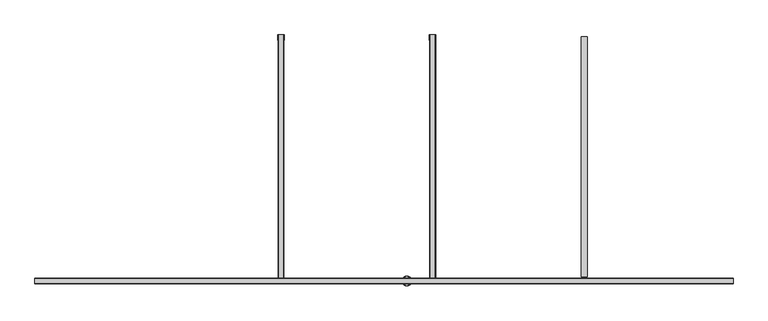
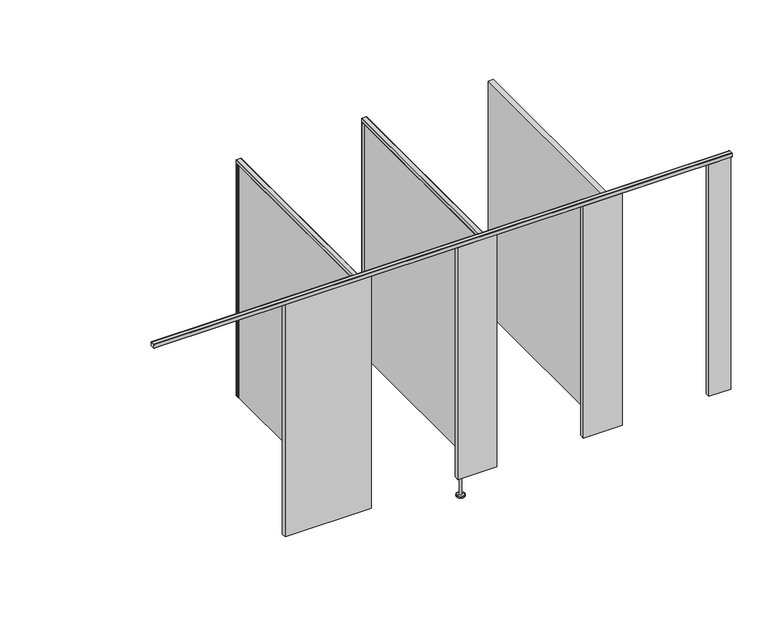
"""IFC4 building model written with IfcOpenShell, lengths in millimetres: proxy geometry, Partition_EuroStyle-Bradley_Corp-ADAStall_3StandardStall-NEP-LOFT : Partition_EuroStyle-Bradley_Corp-ADAStall_3StandardStall-NEP-LOFT."""

from ifc_helpers import new_model, si_unit, point, frame, frame_2d, origin, place, context, project, spatial, polyline, circle_curve, trimmed, segment, composite_curve, outline, extrude, source, transform, mapped, element, save
from ifc_brep_helpers import plane_surface, cylinder_surface, revolved_surface, advanced_brep


def specialty_equipment_5f19d8a4(model_context):
    return source(origin(), model_context, "Body", "SolidModel", [
        extrude(outline(composite_curve([segment(polyline([(2344.9288796, -32.5000002), (2344.4205405, -2.02918)]), True, "CONTINUOUS"), segment(trimmed(circle_curve(frame_2d((2346.4497205, -2.02918)), 2.02918), [point((2344.4205405, -2.02918))], [point((2346.4497205, 0.0))], False, "CARTESIAN"), True, "CONTINUOUS"), segment(polyline([(2346.4497205, 0.0), (2384.3909298, 0.0)]), True, "CONTINUOUS"), segment(trimmed(circle_curve(frame_2d((2384.3909298, -2.02918)), 2.02918), [point((2384.3909298, 0.0))], [point((2386.4201098, -2.02918))], False, "CARTESIAN"), True, "CONTINUOUS"), segment(polyline([(2386.4201098, -2.02918), (2385.9117707, -32.5000002), (2384.4131851, -32.5000002)]), True, "CONTINUOUS"), segment(trimmed(circle_curve(frame_2d((2384.4167525, -31.5009082)), 0.9990984), [point((2384.4131851, -32.5000002))], [point((2383.9430999, -30.6212202))], False, "CARTESIAN"), True, "CONTINUOUS"), segment(polyline([(2383.9430999, -30.6212202), (2384.0642099, -23.3575702)]), True, "CONTINUOUS"), segment(trimmed(circle_curve(frame_2d((2384.5817558, -22.5000551)), 1.0015917), [point((2384.0642099, -23.3575702))], [point((2384.0926587, -21.6260013))], False, "CARTESIAN"), True, "CONTINUOUS"), segment(polyline([(2384.0926587, -21.6260013), (2384.38671, -4.0)]), True, "CONTINUOUS"), segment(trimmed(circle_curve(frame_2d((2382.3870154, -3.9990939)), 1.9996948), [point((2384.38671, -4.0))], [point((2382.3379958, -2.0))], True, "CARTESIAN"), True, "CONTINUOUS"), segment(polyline([(2382.3379958, -2.0), (2348.4536968, -2.0)]), True, "CONTINUOUS"), segment(trimmed(circle_curve(frame_2d((2348.4536968, -4.0002204)), 2.0002204), [point((2348.4536968, -2.0))], [point((2346.4535049, -3.9895469))], True, "CARTESIAN"), True, "CONTINUOUS"), segment(polyline([(2346.4535049, -3.9895469), (2346.7475604, -21.6257602)]), True, "CONTINUOUS"), segment(trimmed(circle_curve(frame_2d((2346.2588945, -22.5000551)), 1.0015917), [point((2346.7475604, -21.6257602))], [point((2346.7764404, -23.3575702))], False, "CARTESIAN"), True, "CONTINUOUS"), segment(polyline([(2346.7764404, -23.3575702), (2346.8975504, -30.6212202)]), True, "CONTINUOUS"), segment(trimmed(circle_curve(frame_2d((2346.4238978, -31.5009082)), 0.9990984), [point((2346.8975504, -30.6212202))], [point((2346.4274652, -32.5000002))], False, "CARTESIAN"), True, "CONTINUOUS"), segment(polyline([(2346.4274652, -32.5000002), (2344.9288796, -32.5000002)]), True, "CONTINUOUS")], self_intersect=False)), frame((0.0, 0.0, 150.0), z_axis=(0.0, 0.0, 1.0), x_axis=(1.0, 0.0, 0.0)), (0.0, 0.0, 1.0), 1855.0),
        extrude(outline(composite_curve([segment(polyline([(1394.518717, -32.5000002), (1394.0103779, -2.02918)]), True, "CONTINUOUS"), segment(trimmed(circle_curve(frame_2d((1396.0395579, -2.02918)), 2.02918), [point((1394.0103779, -2.02918))], [point((1396.0395579, 0.0))], False, "CARTESIAN"), True, "CONTINUOUS"), segment(polyline([(1396.0395579, 0.0), (1433.9807672, 0.0)]), True, "CONTINUOUS"), segment(trimmed(circle_curve(frame_2d((1433.9807672, -2.02918)), 2.02918), [point((1433.9807672, 0.0))], [point((1436.0099473, -2.02918))], False, "CARTESIAN"), True, "CONTINUOUS"), segment(polyline([(1436.0099473, -2.02918), (1435.5016081, -32.5000002), (1434.0030225, -32.5000002)]), True, "CONTINUOUS"), segment(trimmed(circle_curve(frame_2d((1434.0065899, -31.5009082)), 0.9990984), [point((1434.0030225, -32.5000002))], [point((1433.5329373, -30.6212202))], False, "CARTESIAN"), True, "CONTINUOUS"), segment(polyline([(1433.5329373, -30.6212202), (1433.6540473, -23.3575702)]), True, "CONTINUOUS"), segment(trimmed(circle_curve(frame_2d((1434.1715932, -22.5000551)), 1.0015917), [point((1433.6540473, -23.3575702))], [point((1433.6824961, -21.6260013))], False, "CARTESIAN"), True, "CONTINUOUS"), segment(polyline([(1433.6824961, -21.6260013), (1433.9765475, -4.0)]), True, "CONTINUOUS"), segment(trimmed(circle_curve(frame_2d((1431.9768528, -3.9990939)), 1.9996948), [point((1433.9765475, -4.0))], [point((1431.9278332, -2.0))], True, "CARTESIAN"), True, "CONTINUOUS"), segment(polyline([(1431.9278332, -2.0), (1398.0435342, -2.0)]), True, "CONTINUOUS"), segment(trimmed(circle_curve(frame_2d((1398.0435342, -4.0002204)), 2.0002204), [point((1398.0435342, -2.0))], [point((1396.0433424, -3.9895469))], True, "CARTESIAN"), True, "CONTINUOUS"), segment(polyline([(1396.0433424, -3.9895469), (1396.3373979, -21.6257602)]), True, "CONTINUOUS"), segment(trimmed(circle_curve(frame_2d((1395.848732, -22.5000551)), 1.0015917), [point((1396.3373979, -21.6257602))], [point((1396.3662779, -23.3575702))], False, "CARTESIAN"), True, "CONTINUOUS"), segment(polyline([(1396.3662779, -23.3575702), (1396.4873879, -30.6212202)]), True, "CONTINUOUS"), segment(trimmed(circle_curve(frame_2d((1396.0137352, -31.5009082)), 0.9990984), [point((1396.4873879, -30.6212202))], [point((1396.0173026, -32.5000002))], False, "CARTESIAN"), True, "CONTINUOUS"), segment(polyline([(1396.0173026, -32.5000002), (1394.518717, -32.5000002)]), True, "CONTINUOUS")], self_intersect=False)), frame((0.0, 0.0, 150.0), z_axis=(0.0, 0.0, 1.0), x_axis=(1.0, 0.0, 0.0)), (0.0, 0.0, 1.0), 1855.0),
        extrude(outline(composite_curve([segment(polyline([(2032.9666591, 2347.4203701), (2005.7492965, 2347.8741806)]), True, "CONTINUOUS"), segment(trimmed(circle_curve(frame_2d((2005.762, 2348.6360747)), 0.762), [point((2005.7492965, 2347.8741806))], [point((2005.0, 2348.6360747))], False, "CARTESIAN"), True, "CONTINUOUS"), segment(polyline([(2005.0, 2348.6360747), (2005.0, 2382.1733505)]), True, "CONTINUOUS"), segment(trimmed(circle_curve(frame_2d((2005.79375, 2382.1733505)), 0.79375), [point((2005.0, 2382.1733505))], [point((2005.7805172, 2382.9669902))], False, "CARTESIAN"), True, "CONTINUOUS"), segment(polyline([(2005.7805172, 2382.9669902), (2032.9666591, 2383.4202802)]), True, "CONTINUOUS"), segment(trimmed(circle_curve(frame_2d((2033.0000015, 2381.4205597)), 1.9999985), [point((2032.9666591, 2383.4202802))], [point((2035.0, 2381.4205597))], False, "CARTESIAN"), True, "CONTINUOUS"), segment(polyline([(2035.0, 2381.4205597), (2035.0, 2349.4200907)]), True, "CONTINUOUS"), segment(trimmed(circle_curve(frame_2d((2033.0000015, 2349.4200907)), 1.9999985), [point((2035.0, 2349.4200907))], [point((2032.9666591, 2347.4203701))], False, "CARTESIAN"), True, "CONTINUOUS")], self_intersect=False)), frame((0.0, -1524.0, 0.0), z_axis=(0.0, 1.0, 0.0), x_axis=(0.0, 0.0, 1.0)), (0.0, 0.0, 1.0), 1524.0),
        extrude(outline(composite_curve([segment(polyline([(-1523.9996998, 2032.9666591), (-1524.4535103, 2005.7492965)]), True, "CONTINUOUS"), segment(trimmed(circle_curve(frame_2d((-1525.2154044, 2005.762)), 0.762), [point((-1524.4535103, 2005.7492965))], [point((-1525.2154044, 2005.0))], False, "CARTESIAN"), True, "CONTINUOUS"), segment(polyline([(-1525.2154044, 2005.0), (-1558.7526802, 2005.0)]), True, "CONTINUOUS"), segment(trimmed(circle_curve(frame_2d((-1558.7526802, 2005.79375)), 0.79375), [point((-1558.7526802, 2005.0))], [point((-1559.5463199, 2005.7805172))], False, "CARTESIAN"), True, "CONTINUOUS"), segment(polyline([(-1559.5463199, 2005.7805172), (-1559.9996099, 2032.9666591)]), True, "CONTINUOUS"), segment(trimmed(circle_curve(frame_2d((-1557.9998894, 2033.0000015)), 1.9999985), [point((-1559.9996099, 2032.9666591))], [point((-1557.9998894, 2035.0))], False, "CARTESIAN"), True, "CONTINUOUS"), segment(polyline([(-1557.9998894, 2035.0), (-1525.9994204, 2035.0)]), True, "CONTINUOUS"), segment(trimmed(circle_curve(frame_2d((-1525.9994204, 2033.0000015)), 1.9999985), [point((-1525.9994204, 2035.0))], [point((-1523.9996998, 2032.9666591))], False, "CARTESIAN"), True, "CONTINUOUS")], self_intersect=False)), frame((-127.0, 0.0, 0.0), z_axis=(1.0, 0.0, 0.0), x_axis=(0.0, 1.0, 0.0)), (0.0, 0.0, 1.0), 4375.2203251),
        extrude(outline(composite_curve([segment(polyline([(2032.9666591, 1397.0102076), (2005.7492965, 1397.4640181)]), True, "CONTINUOUS"), segment(trimmed(circle_curve(frame_2d((2005.762, 1398.2259122)), 0.762), [point((2005.7492965, 1397.4640181))], [point((2005.0, 1398.2259122))], False, "CARTESIAN"), True, "CONTINUOUS"), segment(polyline([(2005.0, 1398.2259122), (2005.0, 1431.763188)]), True, "CONTINUOUS"), segment(trimmed(circle_curve(frame_2d((2005.79375, 1431.763188)), 0.79375), [point((2005.0, 1431.763188))], [point((2005.7805172, 1432.5568277))], False, "CARTESIAN"), True, "CONTINUOUS"), segment(polyline([(2005.7805172, 1432.5568277), (2032.9666591, 1433.0101176)]), True, "CONTINUOUS"), segment(trimmed(circle_curve(frame_2d((2033.0000015, 1431.0103971)), 1.9999985), [point((2032.9666591, 1433.0101176))], [point((2035.0, 1431.0103971))], False, "CARTESIAN"), True, "CONTINUOUS"), segment(polyline([(2035.0, 1431.0103971), (2035.0, 1399.0099281)]), True, "CONTINUOUS"), segment(trimmed(circle_curve(frame_2d((2033.0000015, 1399.0099281)), 1.9999985), [point((2035.0, 1399.0099281))], [point((2032.9666591, 1397.0102076))], False, "CARTESIAN"), True, "CONTINUOUS")], self_intersect=False)), frame((0.0, -1524.0, 0.0), z_axis=(0.0, 1.0, 0.0), x_axis=(0.0, 0.0, 1.0)), (0.0, 0.0, 1.0), 1524.0),
        advanced_brep(
        [(2195.0453255, -1541.9996549, 150.0000008), (2213.0453248, -1541.9996549, 150.0000008), (2213.0453248, -1541.9996549, 12.0000001), (2195.0453255, -1541.9996549, 12.0000001), (2204.0453251, -1541.9996549, 150.0000008), (2173.0453262, -1541.9996549, 0.0), (2235.0453241, -1541.9996549, 0.0), (2204.0453251, -1541.9996549, 0.0), (2173.0453262, -1541.9996549, 10.0000001), (2235.0453241, -1541.9996549, 10.0000001), (2175.0477381, -1541.9996549, 12.0000001), (2233.0429122, -1541.9996549, 12.0000001)],
        [
            (0, 1, circle_curve(frame((2204.0453251, -1541.9996549, 150.0000008), z_axis=(0.0, 0.0, -1.0), x_axis=(1.0, 0.0, 0.0)), 8.9999997)),
            (1, 2),
            (2, 3, circle_curve(frame((2204.0453251, -1541.9996549, 12.0000001), z_axis=(0.0, 0.0, 1.0), x_axis=(1.0, 0.0, 0.0)), 8.9999997)),
            (3, 0),
            (1, 0, circle_curve(frame((2204.0453251, -1541.9996549, 150.0000008), z_axis=(0.0, 0.0, -1.0), x_axis=(1.0, 0.0, 0.0)), 8.9999997)),
            (3, 2, circle_curve(frame((2204.0453251, -1541.9996549, 12.0000001), z_axis=(0.0, 0.0, 1.0), x_axis=(1.0, 0.0, 0.0)), 8.9999997)),
            (4, 1),
            (0, 4),
            (5, 6, circle_curve(frame((2204.0453251, -1541.9996549, 0.0), z_axis=(0.0, 0.0, -1.0), x_axis=(1.0, 0.0, 0.0)), 30.9999989)),
            (6, 7),
            (7, 5),
            (6, 5, circle_curve(frame((2204.0453251, -1541.9996549, 0.0), z_axis=(0.0, 0.0, -1.0), x_axis=(1.0, 0.0, 0.0)), 30.9999989)),
            (8, 9, circle_curve(frame((2204.0453251, -1541.9996549, 10.0000001), z_axis=(0.0, 0.0, -1.0), x_axis=(1.0, 0.0, 0.0)), 30.9999989)),
            (9, 6),
            (5, 8),
            (9, 8, circle_curve(frame((2204.0453251, -1541.9996549, 10.0000001), z_axis=(0.0, 0.0, -1.0), x_axis=(1.0, 0.0, 0.0)), 30.9999989)),
            (10, 11, circle_curve(frame((2204.0453251, -1541.9996549, 12.0000001), z_axis=(0.0, 0.0, -1.0), x_axis=(1.0, 0.0, 0.0)), 28.997587)),
            (11, 9),
            (8, 10),
            (11, 10, circle_curve(frame((2204.0453251, -1541.9996549, 12.0000001), z_axis=(0.0, 0.0, -1.0), x_axis=(1.0, 0.0, 0.0)), 28.997587)),
            (2, 11),
            (10, 3),
        ],
        [
            cylinder_surface(frame((2204.0453251, -1541.9996549, 0.0), z_axis=(0.0, 0.0, 1.0), x_axis=(1.0, 0.0, 0.0)), 8.9999997),
            plane_surface(frame((2204.0453251, -1541.9996549, 150.0000008), z_axis=(0.0, 0.0, 1.0), x_axis=(1.0, 0.0, 0.0))),
            plane_surface(frame((2204.0453251, -1541.9996549, 0.0), z_axis=(0.0, 0.0, -1.0), x_axis=(1.0, 0.0, 0.0))),
            cylinder_surface(frame((2204.0453251, -1541.9996549, 0.0), z_axis=(0.0, 0.0, 1.0), x_axis=(1.0, 0.0, 0.0)), 30.9999989),
            revolved_surface(polyline([(2235.0453241, -1541.9996549, 10.0000001), (2233.0429122, -1541.9996549, 12.0000001)]), (2204.0453251, -1541.9996549, 0.0), (0.0, 0.0, 1.0)),
            plane_surface(frame((2204.0453251, -1541.9996549, 12.0000001), z_axis=(0.0, 0.0, 1.0), x_axis=(1.0, 0.0, 0.0))),
        ],
        [
            (0, [[1, 2, 3, 4]]),
            (0, [[5, -4, 6, -2]]),
            (1, [[7, -1, 8]]),
            (1, [[-8, -5, -7]]),
            (2, [[9, 10, 11]]),
            (2, [[12, -11, -10]]),
            (3, [[13, 14, -9, 15]]),
            (3, [[16, -15, -12, -14]]),
            (4, [[17, 18, -13, 19]]),
            (4, [[20, -19, -16, -18]]),
            (5, [[-3, 21, -17, 22]]),
            (5, [[-6, -22, -20, -21]]),
        ],
    ),
        extrude(outline(polyline([(1517.0170903, -1524.0), (1517.0170903, -1559.9996549), (866.1, -1559.9996549), (866.1, -1524.0), (1517.0170903, -1524.0)])), frame((0.0, 0.0, 150.0), z_axis=(0.0, 0.0, 1.0), x_axis=(1.0, 0.0, 0.0)), (0.0, 0.0, 1.0), 1855.0),
        extrude(outline(polyline([(2467.4170903, -1524.0), (2467.4170903, -1559.9996549), (2172.1201766, -1559.9996549), (2172.1201766, -1524.0), (2467.4170903, -1524.0)])), frame((0.0, 0.0, 150.0), z_axis=(0.0, 0.0, 1.0), x_axis=(1.0, 0.0, 0.0)), (0.0, 0.0, 1.0), 1855.0),
        extrude(outline(polyline([(3417.8170903, -1524.0), (3417.8170903, -1559.9996549), (3122.5201766, -1559.9996549), (3122.5201766, -1524.0), (3417.8170903, -1524.0)])), frame((0.0, 0.0, 150.0), z_axis=(0.0, 0.0, 1.0), x_axis=(1.0, 0.0, 0.0)), (0.0, 0.0, 1.0), 1855.0),
        extrude(outline(polyline([(4072.9201766, -1524.0), (4238.3143251, -1524.0), (4238.3143251, -1559.9996549), (4072.9201766, -1559.9996549), (4072.9201766, -1524.0)])), frame((0.0, 0.0, 150.0), z_axis=(0.0, 0.0, 1.0), x_axis=(1.0, 0.0, 0.0)), (0.0, 0.0, 1.0), 1855.0),
        extrude(outline(polyline([(3297.8203251, -1514.0), (3297.8203251, -9.9993891), (3333.8203251, -9.9993891), (3333.8203251, -1514.0), (3297.8203251, -1514.0)])), frame((0.0, 0.0, 150.0), z_axis=(0.0, 0.0, 1.0), x_axis=(1.0, 0.0, 0.0)), (0.0, 0.0, 1.0), 1855.0),
        extrude(outline(polyline([(2347.4203251, -1514.0), (2347.4203251, -9.9993891), (2383.4203251, -9.9993891), (2383.4203251, -1514.0), (2347.4203251, -1514.0)])), frame((0.0, 0.0, 150.0), z_axis=(0.0, 0.0, 1.0), x_axis=(1.0, 0.0, 0.0)), (0.0, 0.0, 1.0), 1855.0),
        extrude(outline(polyline([(1397.0, -1524.0), (1397.0, -9.9993891), (1433.0203251, -9.9993891), (1433.0203251, -1524.0), (1397.0, -1524.0)])), frame((0.0, 0.0, 150.0), z_axis=(0.0, 0.0, 1.0), x_axis=(1.0, 0.0, 0.0)), (0.0, 0.0, 1.0), 1855.0),
    ])


if __name__ == "__main__":
    model = new_model("IFC4")
    model_context = context("Model", 3, world=origin())
    ifc_project = project(units=[si_unit("LENGTHUNIT", "METRE", prefix="MILLI")], contexts=[model_context])
    site = spatial("IfcSite", under=ifc_project)
    building = spatial("IfcBuilding", under=site)
    placement = place(None, origin())
    specialty_equipment_shape = specialty_equipment_5f19d8a4(model_context)
    element("IfcBuildingElementProxy", 1, Name="Partition_EuroStyle-Bradley_Corp-ADAStall_3StandardStall-NEP-LOFT : Partition_EuroStyle-Bradley_Corp-ADAStall_3StandardStall-NEP-LOFT", ObjectType="Partition_EuroStyle-Bradley_Corp-ADAStall_3StandardStall-NEP-LOFT : Partition_EuroStyle-Bradley_Corp-ADAStall_3StandardStall-NEP-LOFT", at=placement, inside=building, context=model_context, shape_type="MappedRepresentation", body=[
        mapped(specialty_equipment_shape, transform((0.0, 0.0, 0.0), x_axis=(1.0, 0.0, 0.0), y_axis=(0.0, 1.0, 0.0), z_axis=(0.0, 0.0, 1.0))),
    ])
    save(model, "model.ifc")
